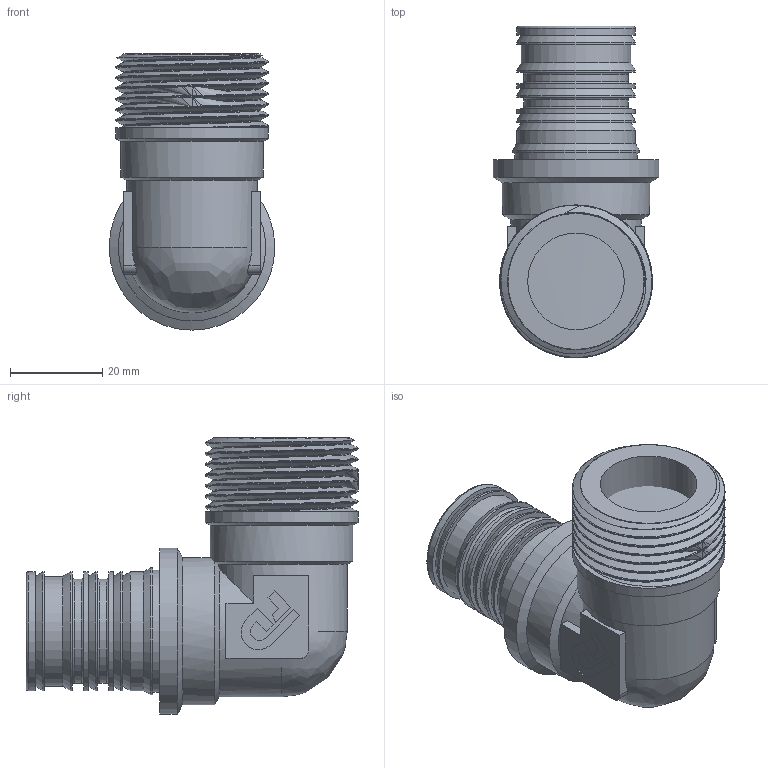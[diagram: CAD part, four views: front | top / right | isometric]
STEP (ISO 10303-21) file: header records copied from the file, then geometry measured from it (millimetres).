
FILE_DESCRIPTION(/* description */ (''),/* implementation_level */ '2;1');
FILE_NAME(/* name */ 'C:\Users\Doom\Desktop\Фадотех\Пресс\HDU28-1 31.03.2020\HDU28-1 31.03.2020.stp',/* time_stamp */ '2022-08-13T22:02:19+03:00',/* author */ ('Doom'),/* organization */ (''),/* preprocessor_version */ 'ST-DEVELOPER v18',/* originating_system */ 'Autodesk Inventor 2020',/* authorisation */ '');
FILE_SCHEMA (('AUTOMOTIVE_DESIGN { 1 0 10303 214 3 1 1 }'));
Length unit declared in the file: millimetre
Products named in the file (1): HDU27-1 31.03.2020
Bounding box: 36 x 72.1 x 60 mm (x, y, z)
Volume: 36194 mm3; surface area: 22321.8 mm2
Topology: 2 solids, 2 shells, 130 faces, 360 edges, 249 vertices
Faces by surface type: plane 62, cylinder 34, bspline 16, cone 13, torus 5
Full cylindrical faces by diameter (mm): 19.5 x1, 21 x1, 22.6 x2, 23.8 x1, 25.8 x8, 26.5 x1, 27.5 x1, 29.776 x2, 31 x1, 32 x1, 33.2 x8, 36 x1
Entity records: 8441 total; most frequent: CARTESIAN_POINT 5104, ORIENTED_EDGE 720, DIRECTION 640, EDGE_CURVE 360, VERTEX_POINT 249, AXIS2_PLACEMENT_3D 236, LINE 168, VECTOR 168
